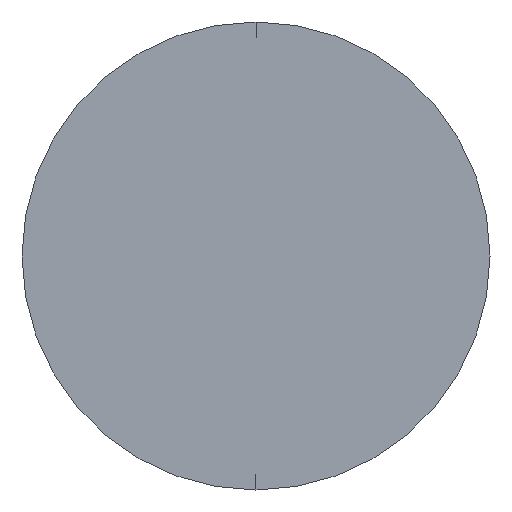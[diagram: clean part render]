
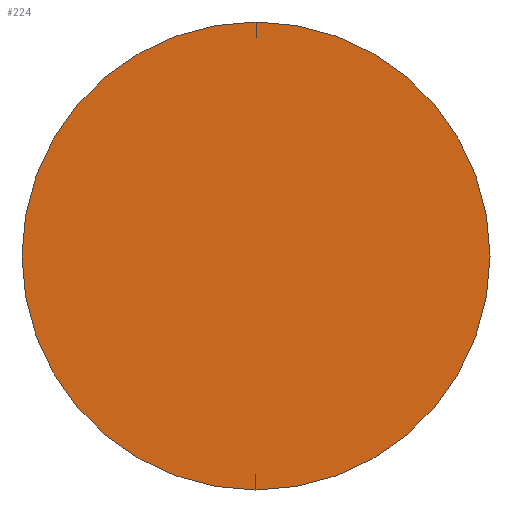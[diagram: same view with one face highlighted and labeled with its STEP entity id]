
A CAD part, left-side view. The second image highlights one B-rep face of the part: STEP entity #224.
In plain terms, the highlighted planar face has unit normal (-1, 0, 0).
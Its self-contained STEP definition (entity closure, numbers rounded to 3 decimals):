
#8 = DIRECTION ( 'NONE',  ( 1., 0., 0. ) ) ;
#27 = CARTESIAN_POINT ( 'NONE',  ( 0., 0., -1.25 ) ) ;
#32 = CIRCLE ( 'NONE', #119, 1.25 ) ;
#47 = FACE_OUTER_BOUND ( 'NONE', #94, .T. ) ;
#81 = DIRECTION ( 'NONE',  ( 0., 0., 1. ) ) ;
#85 = CARTESIAN_POINT ( 'NONE',  ( 0., 0., 0. ) ) ;
#87 = DIRECTION ( 'NONE',  ( -1., 0., 0. ) ) ;
#88 = AXIS2_PLACEMENT_3D ( 'NONE', #112, #145, #81 ) ;
#89 = VERTEX_POINT ( 'NONE', #99 ) ;
#94 = EDGE_LOOP ( 'NONE', ( #109, #100 ) ) ;
#99 = CARTESIAN_POINT ( 'NONE',  ( 0., 0., 1.25 ) ) ;
#100 = ORIENTED_EDGE ( 'NONE', *, *, #110, .T. ) ;
#109 = ORIENTED_EDGE ( 'NONE', *, *, #137, .T. ) ;
#110 = EDGE_CURVE ( 'NONE', #193, #89, #264, .T. ) ;
#112 = CARTESIAN_POINT ( 'NONE',  ( 0., 0., 0. ) ) ;
#119 = AXIS2_PLACEMENT_3D ( 'NONE', #278, #87, #255 ) ;
#137 = EDGE_CURVE ( 'NONE', #89, #193, #32, .T. ) ;
#145 = DIRECTION ( 'NONE',  ( -1., 0., 0. ) ) ;
#193 = VERTEX_POINT ( 'NONE', #27 ) ;
#218 = PLANE ( 'NONE',  #232 ) ;
#224 = ADVANCED_FACE ( 'NONE', ( #47 ), #218, .F. ) ;
#232 = AXIS2_PLACEMENT_3D ( 'NONE', #85, #8, #275 ) ;
#255 = DIRECTION ( 'NONE',  ( 0., 0., 1. ) ) ;
#264 = CIRCLE ( 'NONE', #88, 1.25 ) ;
#275 = DIRECTION ( 'NONE',  ( 0., 0., -1. ) ) ;
#278 = CARTESIAN_POINT ( 'NONE',  ( 0., 0., 0. ) ) ;
